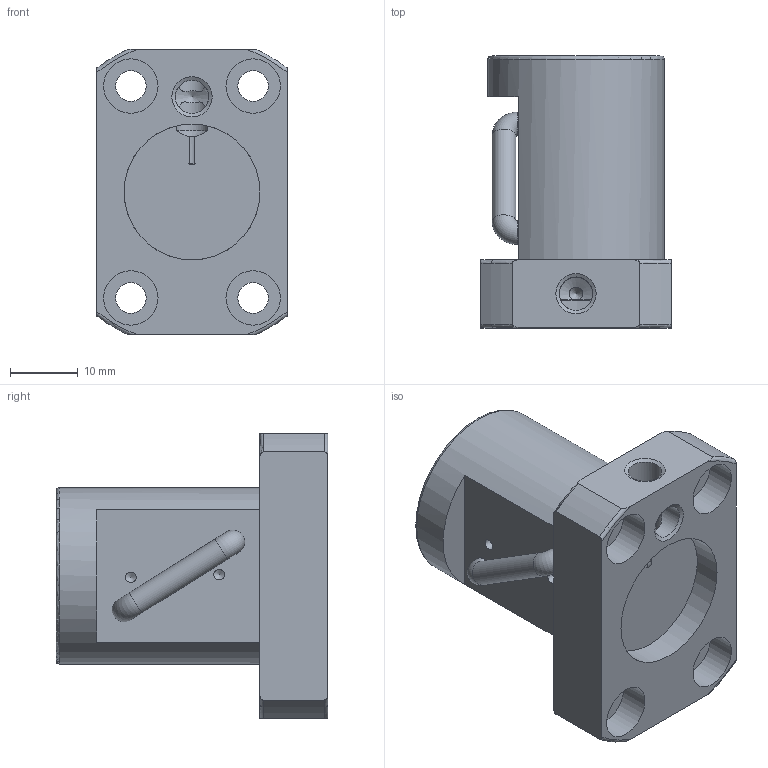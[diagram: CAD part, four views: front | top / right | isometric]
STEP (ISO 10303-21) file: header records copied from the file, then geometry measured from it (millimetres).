
FILE_DESCRIPTION(/* description */ ('Unknown'),/* implementation_level */ '2;1');
FILE_NAME(/* name */ '1010',/* time_stamp */ '2020-11-06T17:17:47+08:00',/* author */ ('Unknown'),/* organization */ ('Unknown'),/* preprocessor_version */ 'ST-DEVELOPER v16.7',/* originating_system */ 'DEX',/* authorisation */ $);
FILE_SCHEMA (('AUTOMOTIVE_DESIGN {1 0 10303 214 3 1 1}'));
Length unit declared in the file: millimetre
Products named in the file (1): 1010
Bounding box: 28 x 40 x 42 mm (x, y, z)
Volume: 22070.8 mm3; surface area: 7700.4 mm2
Topology: 1 solids, 1 shells, 62 faces, 165 edges, 108 vertices
Faces by surface type: cylinder 29, plane 15, torus 11, cone 7
Full cylindrical faces by diameter (mm): 1.567 x2, 3.5 x3, 4.5 x4, 4.917 x4, 8 x4, 20 x2, 26 x1
Entity records: 3178 total; most frequent: CARTESIAN_POINT 1349, DIRECTION 294, ORIENTED_EDGE 236, AXIS2_PLACEMENT_3D 135, EDGE_CURVE 118, FACE_BOUND 112, EDGE_LOOP 108, VERTEX_POINT 94
